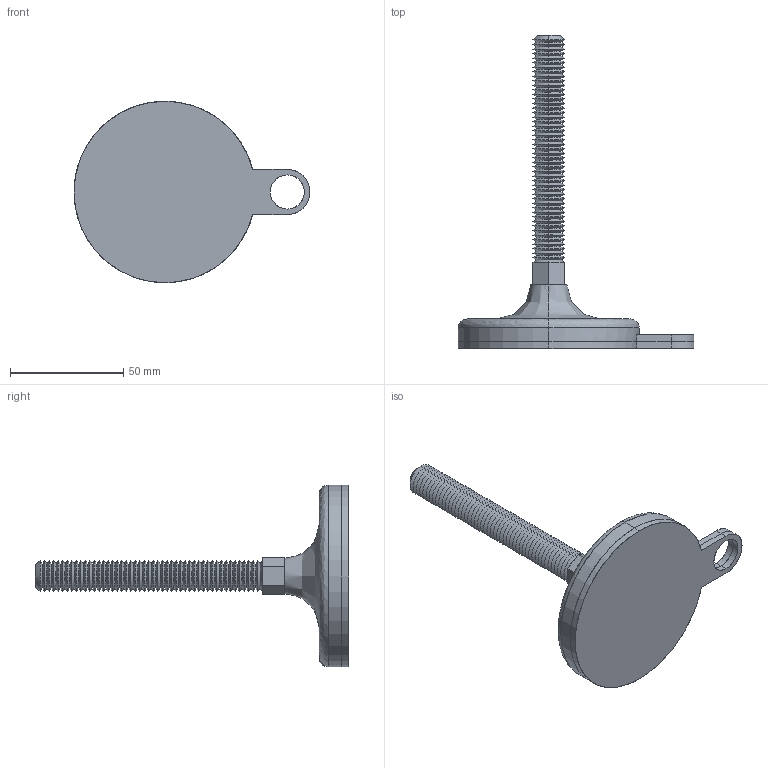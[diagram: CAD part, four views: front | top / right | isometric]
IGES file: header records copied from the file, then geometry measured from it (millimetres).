
Start section: SolidWorks IGES file using analytic representation for surfaces
Global section: file name: C:\Users\liam_\OneDrive\Documents\WORK\Work for WixRoyd\Job Files\J-00026 - Matt Davis CAD - 20191124\04. CAD Drawings\Wixroyd20191124\34704_v2\34704_v2_20191128_IGES\34704.W1401.igs; native system: SolidWorks 2017; preprocessor: SolidWorks 2017; author: liam_; date: 191128.202410; units: millimetre
Bounding box: 104 x 138 x 80 mm (x, y, z)
Surface area: 33144 mm2 (no closed solid volume)
Topology: 0 solids, 0 shells, 247 faces, 1622 edges, 1622 vertices
Faces by surface type: revolution 209, bspline 38
